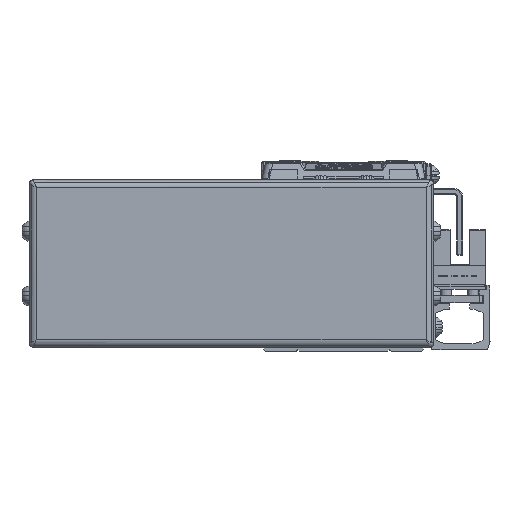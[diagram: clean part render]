
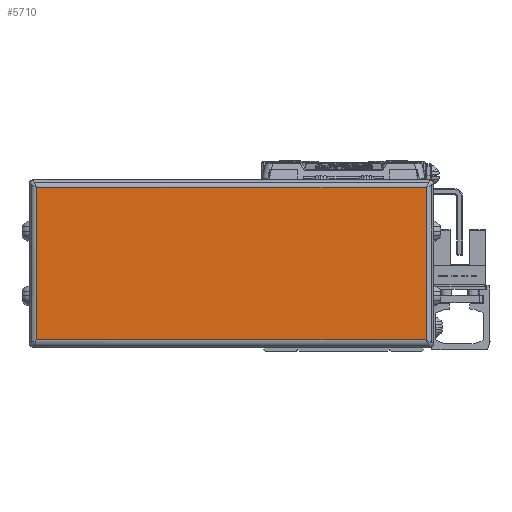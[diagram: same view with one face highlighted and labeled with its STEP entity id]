
A CAD part, left-side view. The second image highlights one B-rep face of the part: STEP entity #5710.
In plain terms, the highlighted planar face has unit normal (-1, 0, 0).
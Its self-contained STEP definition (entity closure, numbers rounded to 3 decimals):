
#5710=ADVANCED_FACE('',(#12235),#12236,.F.);
#12235=FACE_OUTER_BOUND('',#21786,.T.);
#12236=PLANE('',#21787);
#21786=EDGE_LOOP('',(#39053,#39054,#39055,#39056));
#21787=AXIS2_PLACEMENT_3D('',#39057,#39058,#39059);
#39053=ORIENTED_EDGE('',*,*,#51697,.T.);
#39054=ORIENTED_EDGE('',*,*,#50736,.T.);
#39055=ORIENTED_EDGE('',*,*,#51671,.T.);
#39056=ORIENTED_EDGE('',*,*,#53478,.T.);
#39057=CARTESIAN_POINT('',(-48.,29.5,-4.));
#39058=DIRECTION('',(1.0,0.,0.));
#39059=DIRECTION('',(0.,0.,1.0));
#50736=EDGE_CURVE('',#60562,#61664,#61666,.T.);
#51671=EDGE_CURVE('',#61664,#63041,#63043,.T.);
#51697=EDGE_CURVE('',#62170,#60562,#63076,.T.);
#53478=EDGE_CURVE('',#63041,#62170,#65489,.T.);
#60562=VERTEX_POINT('',#74995);
#61664=VERTEX_POINT('',#76534);
#61666=LINE('',#76536,#76537);
#62170=VERTEX_POINT('',#77225);
#63041=VERTEX_POINT('',#78486);
#63043=LINE('',#78488,#78489);
#63076=LINE('',#78530,#78531);
#65489=LINE('',#81990,#81991);
#74995=CARTESIAN_POINT('',(-48.,80.7,16.));
#76534=CARTESIAN_POINT('',(-48.,80.7,-24.));
#76536=CARTESIAN_POINT('',(-48.,80.7,-4.));
#76537=VECTOR('',#89928,10.0);
#77225=CARTESIAN_POINT('',(-48.,-21.7,16.));
#78486=CARTESIAN_POINT('',(-48.,-21.7,-24.));
#78488=CARTESIAN_POINT('',(-48.,29.5,-24.));
#78489=VECTOR('',#91128,10.0);
#78530=CARTESIAN_POINT('',(-48.,29.5,16.));
#78531=VECTOR('',#91164,10.0);
#81990=CARTESIAN_POINT('',(-48.,-21.7,-4.));
#81991=VECTOR('',#93460,10.0);
#89928=DIRECTION('',(0.,0.,-1.0));
#91128=DIRECTION('',(0.,-1.0,0.));
#91164=DIRECTION('',(0.,1.0,0.));
#93460=DIRECTION('',(0.,0.,1.0));
